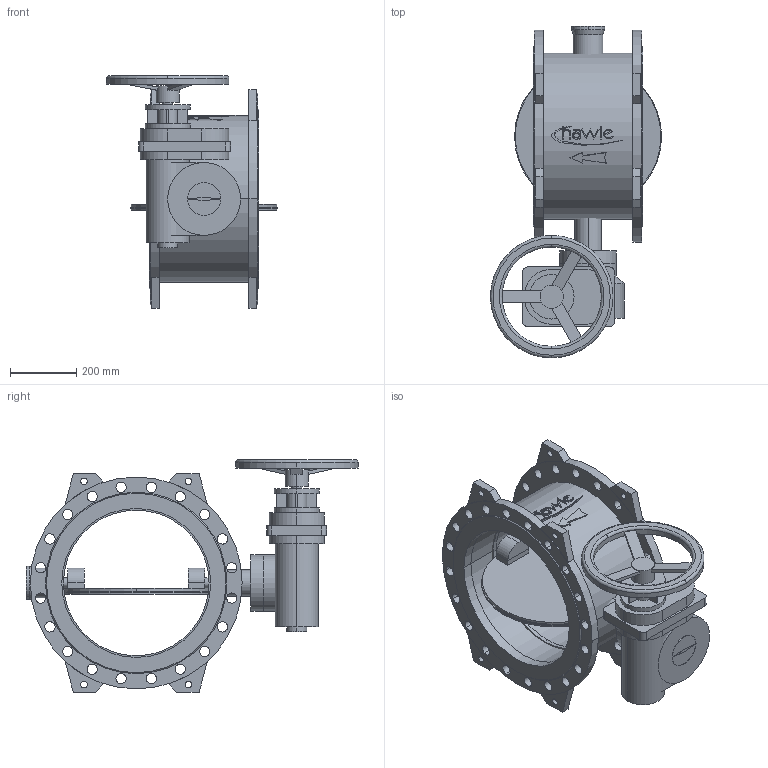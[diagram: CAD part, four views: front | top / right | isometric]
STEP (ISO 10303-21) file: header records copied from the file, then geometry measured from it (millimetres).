
FILE_DESCRIPTION(('STEP AP214'),'1');
FILE_NAME('S:/EK/USER/CAT6/3DHomepage_27-04-2012/neu_08-01-2013/9881K/9881K_PN16_DN450_7800.STP','2013-03-11T15:31:00',(' '),(' '),'Spatial InterOp 3D',' ',' ');
FILE_SCHEMA(('automotive_design'));
Length unit declared in the file: millimetre
Products named in the file (53): 3D-Objekt
Bounding box: 517 x 1003 x 702 mm (x, y, z)
Volume: 42224431.3 mm3; surface area: 3763050.6 mm2
Topology: 53 solids, 53 shells, 459 faces, 1052 edges, 702 vertices
Faces by surface type: plane 230, cylinder 217, cone 8, torus 4
Entity records: 18263 total; most frequent: DIRECTION 2556, CARTESIAN_POINT 2266, ORIENTED_EDGE 2104, EDGE_CURVE 1052, AXIS2_PLACEMENT_3D 992, VERTEX_POINT 702, EDGE_LOOP 576, LINE 572
